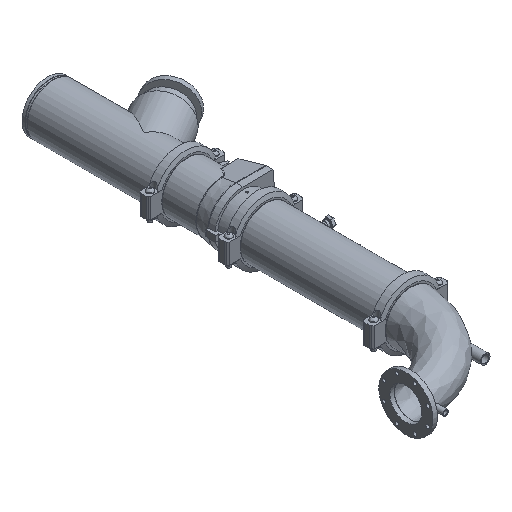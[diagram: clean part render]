
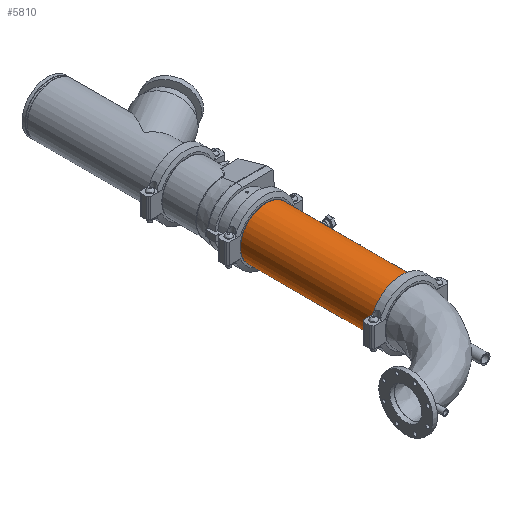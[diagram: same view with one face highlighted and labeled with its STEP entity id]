
A CAD part, isometric view. The second image highlights one B-rep face of the part: STEP entity #5810.
In plain terms, the highlighted cylindrical face has radius 161.925 mm (diameter 323.85 mm), a full revolution.
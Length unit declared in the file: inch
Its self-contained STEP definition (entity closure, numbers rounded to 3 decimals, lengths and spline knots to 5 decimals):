
#158=LINE('',#8836,#576);
#576=VECTOR('',#7040,6.375);
#994=CYLINDRICAL_SURFACE('',#6328,6.375);
#1188=FACE_OUTER_BOUND('',#1517,.T.);
#1517=EDGE_LOOP('',(#3655,#3656,#3657,#3658,#3659,#3660));
#1929=CIRCLE('',#6326,6.375);
#1930=CIRCLE('',#6327,6.375);
#1931=CIRCLE('',#6329,6.375);
#1932=CIRCLE('',#6330,6.375);
#2266=VERTEX_POINT('',#8827);
#2267=VERTEX_POINT('',#8828);
#2268=VERTEX_POINT('',#8832);
#2269=VERTEX_POINT('',#8833);
#2830=EDGE_CURVE('',#2266,#2267,#1929,.T.);
#2831=EDGE_CURVE('',#2267,#2266,#1930,.T.);
#2832=EDGE_CURVE('',#2268,#2269,#1931,.T.);
#2833=EDGE_CURVE('',#2269,#2268,#1932,.T.);
#2834=EDGE_CURVE('',#2269,#2267,#158,.T.);
#3655=ORIENTED_EDGE('',*,*,#2832,.F.);
#3656=ORIENTED_EDGE('',*,*,#2833,.F.);
#3657=ORIENTED_EDGE('',*,*,#2834,.T.);
#3658=ORIENTED_EDGE('',*,*,#2831,.T.);
#3659=ORIENTED_EDGE('',*,*,#2830,.T.);
#3660=ORIENTED_EDGE('',*,*,#2834,.F.);
#5810=ADVANCED_FACE('',(#1188),#994,.T.);
#6326=AXIS2_PLACEMENT_3D('',#8829,#7030,#7031);
#6327=AXIS2_PLACEMENT_3D('',#8830,#7032,#7033);
#6328=AXIS2_PLACEMENT_3D('',#8831,#7034,#7035);
#6329=AXIS2_PLACEMENT_3D('',#8834,#7036,#7037);
#6330=AXIS2_PLACEMENT_3D('',#8835,#7038,#7039);
#7030=DIRECTION('center_axis',(1.,0.,0.));
#7031=DIRECTION('ref_axis',(0.,0.,-1.));
#7032=DIRECTION('center_axis',(1.,0.,0.));
#7033=DIRECTION('ref_axis',(0.,0.,-1.));
#7034=DIRECTION('center_axis',(1.,0.,0.));
#7035=DIRECTION('ref_axis',(0.,1.,0.));
#7036=DIRECTION('center_axis',(1.,0.,0.));
#7037=DIRECTION('ref_axis',(0.,0.,-1.));
#7038=DIRECTION('center_axis',(1.,0.,0.));
#7039=DIRECTION('ref_axis',(0.,0.,-1.));
#7040=DIRECTION('',(-1.,0.,0.));
#8827=CARTESIAN_POINT('',(-16.8085,6.375,0.));
#8828=CARTESIAN_POINT('',(-16.8085,-6.375,0.));
#8829=CARTESIAN_POINT('Origin',(-16.8085,0.,0.));
#8830=CARTESIAN_POINT('Origin',(-16.8085,0.,0.));
#8831=CARTESIAN_POINT('Origin',(0.,0.,0.));
#8832=CARTESIAN_POINT('',(16.8085,6.375,0.));
#8833=CARTESIAN_POINT('',(16.8085,-6.375,0.));
#8834=CARTESIAN_POINT('Origin',(16.8085,0.,0.));
#8835=CARTESIAN_POINT('Origin',(16.8085,0.,0.));
#8836=CARTESIAN_POINT('',(0.,-6.375,0.));
